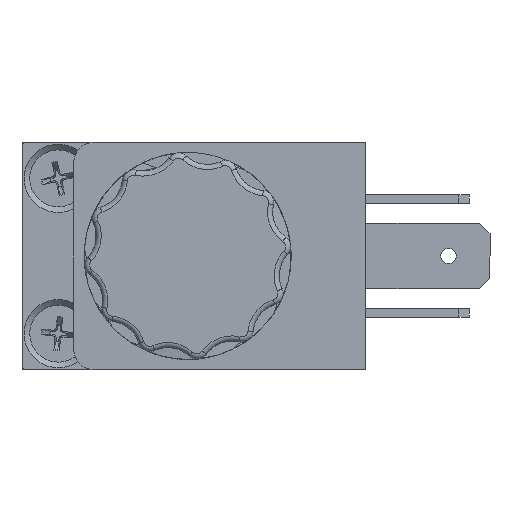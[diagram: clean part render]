
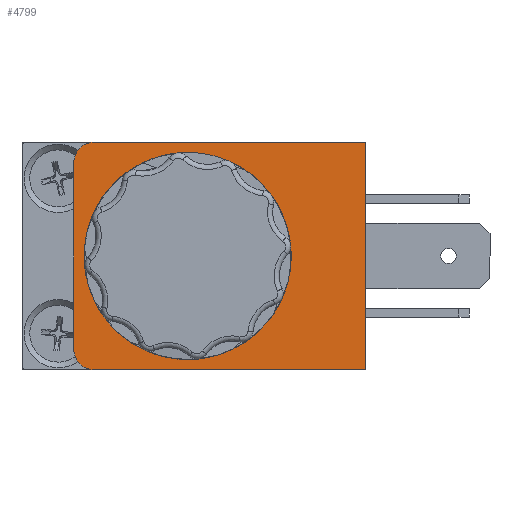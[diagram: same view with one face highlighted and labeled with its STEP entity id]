
A CAD part, left-side view. The second image highlights one B-rep face of the part: STEP entity #4799.
In plain terms, the highlighted planar face has unit normal (-1, 0, 0) as drawn and (0, 0, 1) by its records, which use the part's own axes.
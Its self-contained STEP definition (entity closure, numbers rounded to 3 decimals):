
#668 = EDGE_LOOP ( 'NONE', ( #8882, #8883, #8884, #8885, #8886, #8887 ) ) ;
#673 = EDGE_LOOP ( 'NONE', ( #8888 ) ) ;
#4799 = ADVANCED_FACE ( 'NONE', ( #21258, #21267 ), #20547, .T. ) ;
#7206 = EDGE_CURVE ( 'NONE', #22892, #22892, #27763, .T. ) ;
#7218 = EDGE_CURVE ( 'NONE', #38161, #38160, #27773, .T. ) ;
#7221 = EDGE_CURVE ( 'NONE', #38132, #38161, #27776, .T. ) ;
#7233 = EDGE_CURVE ( 'NONE', #38089, #38168, #27781, .T. ) ;
#7235 = EDGE_CURVE ( 'NONE', #38168, #38132, #27793, .T. ) ;
#7237 = EDGE_CURVE ( 'NONE', #38160, #38126, #27794, .T. ) ;
#7238 = EDGE_CURVE ( 'NONE', #38126, #38089, #27796, .T. ) ;
#8882 = ORIENTED_EDGE ( 'NONE', *, *, #7218, .F. ) ;
#8883 = ORIENTED_EDGE ( 'NONE', *, *, #7221, .F. ) ;
#8884 = ORIENTED_EDGE ( 'NONE', *, *, #7235, .F. ) ;
#8885 = ORIENTED_EDGE ( 'NONE', *, *, #7233, .F. ) ;
#8886 = ORIENTED_EDGE ( 'NONE', *, *, #7238, .F. ) ;
#8887 = ORIENTED_EDGE ( 'NONE', *, *, #7237, .F. ) ;
#8888 = ORIENTED_EDGE ( 'NONE', *, *, #7206, .T. ) ;
#18641 = AXIS2_PLACEMENT_3D ( 'NONE', #20543, #20555, #20556 ) ;
#19061 = AXIS2_PLACEMENT_3D ( 'NONE', #27264, #27265, #27266 ) ;
#19062 = AXIS2_PLACEMENT_3D ( 'NONE', #27286, #27287, #27288 ) ;
#19066 = AXIS2_PLACEMENT_3D ( 'NONE', #27312, #27316, #27317 ) ;
#20543 = CARTESIAN_POINT ( 'NONE',  ( 0., -3.1, 30.5 ) ) ;
#20547 = PLANE ( 'NONE',  #18641 ) ;
#20555 = DIRECTION ( 'NONE',  ( 0., 0., 1. ) ) ;
#20556 = DIRECTION ( 'NONE',  ( 0.707, 0.707, 0. ) ) ;
#21258 = FACE_OUTER_BOUND ( 'NONE', #668, .T. ) ;
#21267 = FACE_BOUND ( 'NONE', #673, .T. ) ;
#22892 = VERTEX_POINT ( 'NONE', #22893 ) ;
#22893 = CARTESIAN_POINT ( 'NONE',  ( -8.3, 0., 30.5 ) ) ;
#27264 = CARTESIAN_POINT ( 'NONE',  ( 0., 0., 30.5 ) ) ;
#27265 = DIRECTION ( 'NONE',  ( 0., 0., -1. ) ) ;
#27266 = DIRECTION ( 'NONE',  ( -1., 0., 0. ) ) ;
#27286 = CARTESIAN_POINT ( 'NONE',  ( 9., 9., 30.5 ) ) ;
#27287 = DIRECTION ( 'NONE',  ( 0., 0., -1. ) ) ;
#27288 = DIRECTION ( 'NONE',  ( 0.707, 0.707, 0. ) ) ;
#27293 = CARTESIAN_POINT ( 'NONE',  ( -9., 11., 30.5 ) ) ;
#27294 = DIRECTION ( 'NONE',  ( 1., 0., 0. ) ) ;
#27310 = CARTESIAN_POINT ( 'NONE',  ( -11., -17.2, 30.5 ) ) ;
#27311 = DIRECTION ( 'NONE',  ( 0., 1., 0. ) ) ;
#27312 = CARTESIAN_POINT ( 'NONE',  ( -9., 9., 30.5 ) ) ;
#27316 = DIRECTION ( 'NONE',  ( 0., 0., -1. ) ) ;
#27317 = DIRECTION ( 'NONE',  ( -0.707, 0.707, 0. ) ) ;
#27320 = CARTESIAN_POINT ( 'NONE',  ( 11., 9., 30.5 ) ) ;
#27321 = DIRECTION ( 'NONE',  ( 0., -1., 0. ) ) ;
#27323 = CARTESIAN_POINT ( 'NONE',  ( 11., -17.2, 30.5 ) ) ;
#27324 = DIRECTION ( 'NONE',  ( -1., 0., 0. ) ) ;
#27763 = CIRCLE ( 'NONE', #19061, 8.3 ) ;
#27773 = CIRCLE ( 'NONE', #19062, 2. ) ;
#27776 = LINE ( 'NONE', #27293, #27777 ) ;
#27777 = VECTOR ( 'NONE', #27294, 1000. ) ;
#27781 = LINE ( 'NONE', #27310, #27787 ) ;
#27787 = VECTOR ( 'NONE', #27311, 1000. ) ;
#27793 = CIRCLE ( 'NONE', #19066, 2. ) ;
#27794 = LINE ( 'NONE', #27320, #27795 ) ;
#27795 = VECTOR ( 'NONE', #27321, 1000. ) ;
#27796 = LINE ( 'NONE', #27323, #27797 ) ;
#27797 = VECTOR ( 'NONE', #27324, 1000. ) ;
#29729 = CARTESIAN_POINT ( 'NONE',  ( -11., -17.2, 30.5 ) ) ;
#29766 = CARTESIAN_POINT ( 'NONE',  ( 11., -17.2, 30.5 ) ) ;
#29772 = CARTESIAN_POINT ( 'NONE',  ( -9., 11., 30.5 ) ) ;
#29800 = CARTESIAN_POINT ( 'NONE',  ( 11., 9., 30.5 ) ) ;
#29801 = CARTESIAN_POINT ( 'NONE',  ( 9., 11., 30.5 ) ) ;
#29808 = CARTESIAN_POINT ( 'NONE',  ( -11., 9., 30.5 ) ) ;
#38089 = VERTEX_POINT ( 'NONE', #29729 ) ;
#38126 = VERTEX_POINT ( 'NONE', #29766 ) ;
#38132 = VERTEX_POINT ( 'NONE', #29772 ) ;
#38160 = VERTEX_POINT ( 'NONE', #29800 ) ;
#38161 = VERTEX_POINT ( 'NONE', #29801 ) ;
#38168 = VERTEX_POINT ( 'NONE', #29808 ) ;
